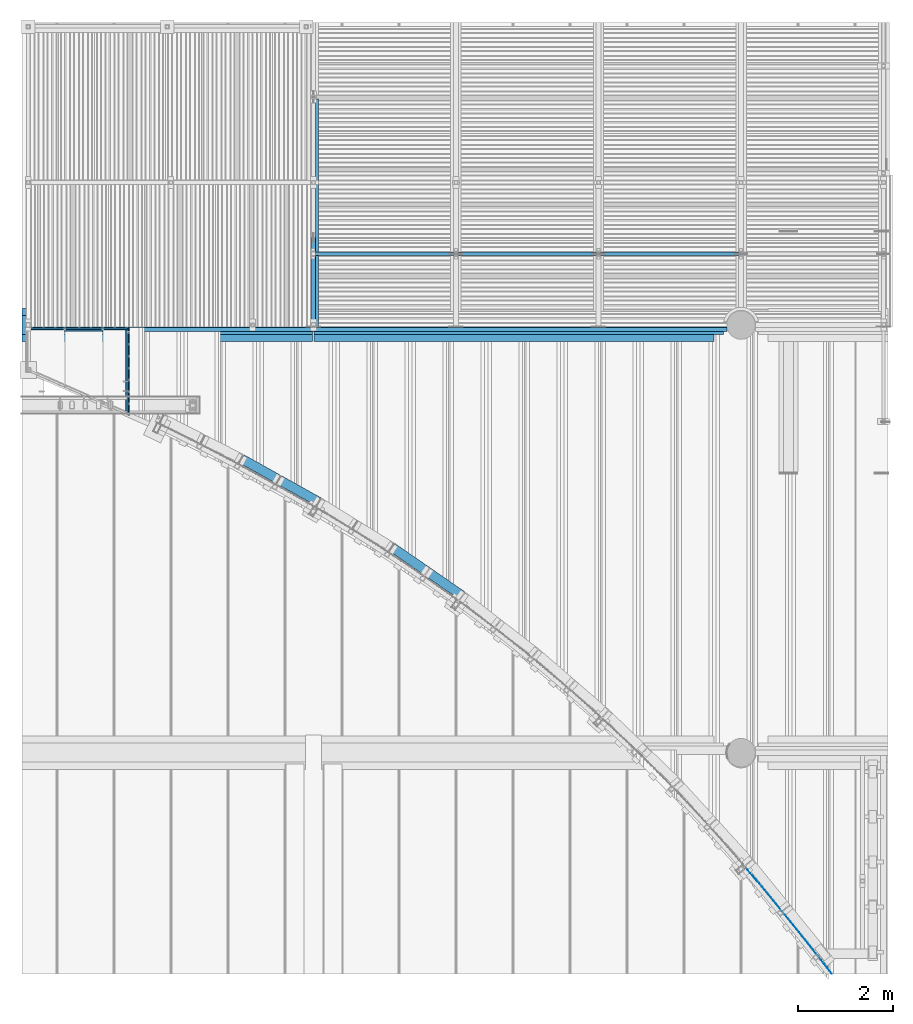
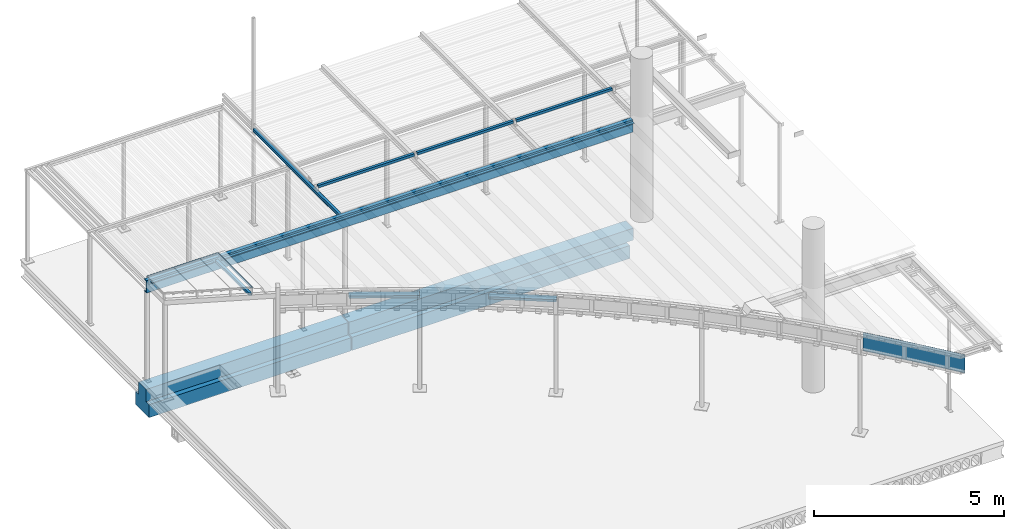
# One storey, part 20 of 98: 15 beams.
"""IFC2X3 building model written with IfcOpenShell, lengths in millimetres."""

from ifc_helpers import new_model, entity, si_unit, converted_unit, derived_unit, direction, frame, origin_with_axes, place, context, subcontext, project, spatial, faceted_brep, material, type_object, element, save


model = new_model("IFC2X3")

# Units and contexts
model_context = context("Model", 3, precision=0.01, world=frame((0.0, 4.29681676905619e-09, 0.0)), true_north=direction((4.01073788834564e-13, 1.0)))
plan_context = context("Plan", 3, precision=0.01, world=frame((0.0, 4.29681676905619e-09, 0.0)), true_north=direction((4.01073788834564e-13, 1.0)))
body_context = subcontext(model_context, "Body", "Model", "MODEL_VIEW")
ifc_project = project(units=[converted_unit("PLANEANGLEUNIT", "DEGREE", entity("IfcPositiveLengthMeasure", 0.0174532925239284), si_unit("PLANEANGLEUNIT", "RADIAN"), dimensions=[0, 0, 0, 0, 0, 0, 0]), si_unit("AREAUNIT", "SQUARE_METRE"), si_unit("LENGTHUNIT", "METRE", prefix="MILLI"), si_unit("MASSUNIT", "GRAM", prefix="KILO"), si_unit("POWERUNIT", "WATT"), si_unit("PRESSUREUNIT", "PASCAL"), si_unit("FORCEUNIT", "NEWTON", prefix="KILO"), si_unit("ELECTRICCURRENTUNIT", "AMPERE"), si_unit("THERMODYNAMICTEMPERATUREUNIT", "DEGREE_CELSIUS"), si_unit("TIMEUNIT", "SECOND"), si_unit("VOLUMEUNIT", "CUBIC_METRE"), derived_unit("LINEARVELOCITYUNIT", [(si_unit("LENGTHUNIT", "METRE"), 1), (si_unit("TIMEUNIT", "SECOND"), -1)]), derived_unit("VOLUMETRICFLOWRATEUNIT", [(si_unit("VOLUMEUNIT", "CUBIC_METRE"), 1), (si_unit("TIMEUNIT", "SECOND"), -1)]), derived_unit("THERMALTRANSMITTANCEUNIT", [(si_unit("POWERUNIT", "WATT"), 1), (si_unit("THERMODYNAMICTEMPERATUREUNIT", "KELVIN"), -1), (si_unit("AREAUNIT", "SQUARE_METRE"), -1)])], contexts=[model_context, plan_context])

# Site, building, storey
site_placement = place(None, frame((0.0, -4.29681676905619e-09, 0.0), z_axis=(0.0, 0.0, 1.0), x_axis=(1.0, 0.0, 0.0)))
site = spatial("IfcSite", under=ifc_project, at=site_placement, Name="Gardermoen", CompositionType="ELEMENT")
building_placement = place(site_placement, frame((0.0, 4.29681676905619e-09, 0.0), z_axis=(0.0, 0.0, 1.0), x_axis=(1.0, 0.0, 0.0)))
building = spatial("IfcBuilding", under=site, at=building_placement, Name="TS", CompositionType="ELEMENT")
storey_placement = place(building_placement, origin_with_axes())
storey = spatial("IfcBuildingStorey", under=building, at=storey_placement, Name="D", CompositionType="ELEMENT", Elevation=0.0)

# Beams
ifc_material_1 = material(Name="STEEL/S355")
beam_type_1 = type_object("IfcBeamType", Name="L80*10", PredefinedType="NOTDEFINED")
beam_1_placement = place(storey_placement, frame((513949.999999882, 414404.98, 207060.001811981), z_axis=(0.0, -1.0, 0.0), x_axis=(1.0, 0.0, 0.0)))
element("IfcBeam", 1, at=beam_1_placement, inside=storey, type_object=beam_type_1, material=ifc_material_1, Name="STÅLBJELKE", ObjectType="L80*10", context=body_context, shape_type="Brep", body=[
    faceted_brep([(14750.0046909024, 30.0, 39.9999996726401), (14750.0046909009, 30.0, -30.0000003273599), (14750.0046909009, -40.0, -30.0000003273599), (14750.0046909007, -40.0, -40.0000003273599), (14750.0046909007, 40.0, -40.0000003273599), (14750.0046909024, 40.0, 39.9999996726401), (2261.53318429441, -40.0, -30.0000000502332), (2261.53318429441, -40.0, -40.0000000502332), (2261.53318429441, 40.0, -40.0000000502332), (2261.53318429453, 40.0, 39.9999999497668), (2261.53318429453, 30.0, 40.0002379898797), (2261.53318429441, 30.0, -30.0000000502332), (140.000000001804, 30.0, 39.9999999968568), (140.000000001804, 40.0, 39.9999999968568), (140.000000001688, 40.0, -40.0000000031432), (140.000000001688, -40.0, -40.0000000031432), (140.000000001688, -40.0, -30.0000000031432), (140.000000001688, 30.0, -30.0000000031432), (2021.53318429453, 30.0, 40.0002379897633), (2021.53318429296, 30.0, -30.0000000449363), (2021.53318429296, -40.0, -30.0000000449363), (2021.53318429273, -40.0, -40.0000000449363), (2021.53318429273, 40.0, -40.0000000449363), (2021.53318429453, 40.0, 39.9999999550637)], [[[0, 1, 2, 3, 4, 5]], [[3, 2, 6, 7]], [[4, 3, 7, 8]], [[5, 4, 8, 9]], [[0, 5, 9, 10]], [[1, 0, 10, 11]], [[2, 1, 11, 6]], [[10, 9, 8, 7, 6, 11]], [[12, 13, 14, 15, 16, 17]], [[18, 19, 20, 21, 22, 23]], [[19, 18, 12, 17]], [[20, 19, 17, 16]], [[21, 20, 16, 15]], [[22, 21, 15, 14]], [[23, 22, 14, 13]], [[18, 23, 13, 12]]]),
])
beam_type_2 = type_object("IfcBeamType", Name="RHS80*5", PredefinedType="NOTDEFINED")
for number, where, z_axis, x_axis in (
    (2, (526044.999999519, 416000.000280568, 207119.999854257), (0.0, 0.0, -1.0), (1.0, 0.0, 0.0)),
    (3, (523044.999999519, 416000.000280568, 207119.999854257), (0.0, 0.0, -1.0), (1.0, 0.0, 0.0)),
    (4, (520044.999999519, 416000.000280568, 207119.999854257), (0.0, 0.0, -1.0), (1.0, 0.0, 0.0)),
):
    element("IfcBeam", number, at=place(storey_placement, frame(where, z_axis=z_axis, x_axis=x_axis)), inside=storey, type_object=beam_type_2, material=ifc_material_1, Name="STÅLBJELKE", ObjectType="RHS80*5", context=body_context, shape_type="Brep", body=[
        faceted_brep([(0.0, 35.0, -35.0), (0.0, -35.0, -35.0), (2910.0007787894, -35.0, -35.0), (2910.0007787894, 35.0, -35.0), (0.0, -35.0, 35.0), (2910.0007787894, -35.0, 35.0), (0.0, 35.0, 35.0), (2910.0007787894, 35.0, 35.0), (0.0, 40.0, -40.0), (0.0, 40.0, 40.0), (2910.0007787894, 40.0, 40.0), (2910.0007787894, 40.0, -40.0), (0.0, -40.0, 40.0), (2910.0007787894, -40.0, 40.0), (0.0, -40.0, -40.0), (2910.0007787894, -40.0, -40.0)], [[[0, 1, 2, 3]], [[1, 4, 5, 2]], [[4, 6, 7, 5]], [[6, 0, 3, 7]], [[8, 9, 10, 11]], [[9, 12, 13, 10]], [[12, 14, 15, 13]], [[14, 8, 11, 15]], [[13, 15, 11, 10], [5, 7, 3, 2]], [[14, 12, 9, 8], [6, 4, 1, 0]]]),
    ])
beam_type_3 = type_object("IfcBeamType", Name="RHS80*80*5", PredefinedType="NOTDEFINED")
beam_2_placement = place(storey_placement, frame((520000.0, 419260.000797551, 206964.999718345), z_axis=(0.0, 0.0, -1.0), x_axis=(0.0, -1.0, 0.0)))
element("IfcBeam", 5, at=beam_2_placement, inside=storey, type_object=beam_type_3, material=ifc_material_1, Name="STÅLBJELKE", ObjectType="RHS80*80*5", context=body_context, shape_type="Brep", body=[
    faceted_brep([(0.0, 35.0, -35.0), (0.0, -35.0, -35.0), (4791.01180849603, -35.0, -35.0), (4791.01189949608, 35.0, -35.0), (0.0, -35.0, 35.0), (4791.01180849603, -35.0, 35.0), (0.0, 35.0, 35.0), (4791.01189949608, 35.0, 35.0), (0.0, 40.0, -40.0), (0.0, 40.0, 40.0), (4791.01190599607, 40.0, 40.0), (4791.01190599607, 40.0, -40.0), (0.0, -40.0, 40.0), (4791.01180199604, -40.0, 40.0), (0.0, -40.0, -40.0), (4791.01180199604, -40.0, -40.0)], [[[0, 1, 2, 3]], [[1, 4, 5, 2]], [[4, 6, 7, 5]], [[6, 0, 3, 7]], [[8, 9, 10, 11]], [[9, 12, 13, 10]], [[12, 14, 15, 13]], [[14, 8, 11, 15]], [[13, 15, 11, 10], [5, 7, 3, 2]], [[14, 12, 9, 8], [6, 4, 1, 0]]]),
])
beam_type_4 = type_object("IfcBeamType", Name="RHS80*6", PredefinedType="NOTDEFINED")
beam_3_placement = place(storey_placement, frame((516079.998435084, 412566.947063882, 207060.0), z_axis=(0.0, 0.0, 1.0), x_axis=(0.0, 1.0, 0.0)))
element("IfcBeam", 6, at=beam_3_placement, inside=storey, type_object=beam_type_4, material=ifc_material_1, Name="STÅLBJELKE", ObjectType="RHS80*6", context=body_context, shape_type="Brep", body=[
    faceted_brep([(1878.02999999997, -40.0, 40.0), (1878.02999999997, 40.0, 40.0), (126.841354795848, 40.0, 40.0), (91.6548138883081, -40.0, 40.0), (1878.02999999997, -40.0, -40.0), (91.6548138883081, -40.0, -40.0), (1878.02999999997, 40.0, -40.0), (126.841354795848, 40.0, -40.0), (1878.02999999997, -34.0, 34.0), (1878.02999999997, 34.0, 34.0), (1878.02999999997, 34.0, -34.0), (1878.02999999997, -34.0, -34.0), (124.202364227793, 34.0, 34.0), (124.202364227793, 34.0, -34.0), (94.2938044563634, -34.0, -34.0), (94.2938044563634, -34.0, 34.0)], [[[0, 1, 2, 3]], [[4, 0, 3, 5]], [[6, 4, 5, 7]], [[1, 6, 7, 2]], [[0, 4, 6, 1], [8, 9, 10, 11]], [[10, 9, 12, 13]], [[11, 10, 13, 14]], [[8, 11, 14, 15]], [[9, 8, 15, 12]], [[5, 3, 2, 7], [14, 13, 12, 15]]]),
])
ifc_material_2 = material(Name="TIMBER/GL36c")
beam_type_5 = type_object("IfcBeamType", Name="PL73*198", PredefinedType="NOTDEFINED")
beam_4_placement = place(storey_placement, frame((523130.374203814, 408803.718649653, 206786.5), z_axis=(-0.568768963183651, -0.822497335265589, 0.0), x_axis=(-0.822497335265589, 0.568768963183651, 0.0)))
element("IfcBeam", 7, at=beam_4_placement, inside=storey, type_object=beam_type_5, material=ifc_material_2, Name="TREBJELKE", ObjectType="PL73*198", context=body_context, shape_type="Brep", body=[
    faceted_brep([(2.3283064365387e-10, 36.5, -99.0000000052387), (-2.3283064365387e-10, 36.5, 99.0000000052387), (1788.79262062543, 36.5, 99.0000000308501), (1788.79262062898, 36.5, -98.9999999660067), (-2.3283064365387e-10, -36.5, 99.0000000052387), (1788.79262062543, -36.5, 99.0000000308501), (2.3283064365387e-10, -36.5, -99.0000000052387), (1788.79262062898, -36.5, -98.9999999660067)], [[[0, 1, 2, 3]], [[1, 4, 5, 2]], [[4, 6, 7, 5]], [[6, 0, 3, 7]], [[5, 7, 3, 2]], [[6, 4, 1, 0]]]),
])
beam_5_placement = place(storey_placement, frame((520109.203264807, 410779.007983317, 206786.5), z_axis=(-0.487818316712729, -0.872945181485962, 0.0), x_axis=(-0.872945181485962, 0.487818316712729, 0.0)))
element("IfcBeam", 8, at=beam_5_placement, inside=storey, type_object=beam_type_5, material=ifc_material_2, Name="TREBJELKE", ObjectType="PL73*198", context=body_context, shape_type="Brep", body=[
    faceted_brep([(2.3283064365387e-10, 36.5, -99.0000000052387), (-2.3283064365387e-10, 36.5, 99.0000000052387), (1853.88054660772, 36.5, 98.9999999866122), (1853.88054660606, 36.5, -99.0000000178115), (-2.3283064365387e-10, -36.5, 99.0000000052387), (1853.88054660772, -36.5, 98.9999999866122), (2.3283064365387e-10, -36.5, -99.0000000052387), (1853.88054660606, -36.5, -99.0000000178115)], [[[0, 1, 2, 3]], [[1, 4, 5, 2]], [[4, 6, 7, 5]], [[6, 0, 3, 7]], [[5, 7, 3, 2]], [[6, 4, 1, 0]]]),
])
beam_type_6 = type_object("IfcBeamType", Name="4*595", PredefinedType="NOTDEFINED")
beam_6_placement = place(storey_placement, frame((529197.272753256, 402966.275256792, 206802.5), z_axis=(0.787132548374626, 0.616783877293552, 0.0), x_axis=(0.616783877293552, -0.787132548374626, 0.0)))
element("IfcBeam", 9, at=beam_6_placement, inside=storey, type_object=beam_type_6, Name="STÅLBJELKE", ObjectType="4*595", context=body_context, shape_type="Brep", body=[
    faceted_brep([(-140.259292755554, 297.5, -3.17192134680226), (-140.082485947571, 297.5, -7.16809242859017), (-94.6079697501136, 297.5, -5.44691682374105), (-94.7564051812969, 297.5, -1.44967190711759), (0.0713644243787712, 297.5, -1.99872637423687), (-0.0713644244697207, 297.5, 1.99872637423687), (94.755524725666, 297.5, 1.3142971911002), (94.618502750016, 297.5, 5.31194962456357), (189.444318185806, 297.5, 4.49214712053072), (189.313003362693, 297.5, 8.48999109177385), (284.137551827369, 297.5, 7.53481693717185), (284.011944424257, 297.5, 11.5328442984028), (378.835032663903, 297.5, 10.4423004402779), (378.715132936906, 297.5, 14.4405030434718), (473.536567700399, 297.5, 13.2145917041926), (473.422375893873, 297.5, 17.2129614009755), (568.241963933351, 297.5, 15.8516850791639), (568.133480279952, 297.5, 19.8502137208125), (662.951028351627, 297.5, 18.3535751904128), (662.848253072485, 297.5, 22.3522546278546), (757.663567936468, 297.5, 20.720256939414), (757.566501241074, 297.5, 24.7190790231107), (852.379389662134, 297.5, 22.9517255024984), (852.288031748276, 297.5, 26.9506820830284), (947.098300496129, 297.5, 25.0479763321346), (947.012651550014, 297.5, 29.0470592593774), (1041.82010739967, 297.5, 27.0090051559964), (1041.74016759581, 297.5, 31.0082062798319), (1136.54461732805, 297.5, 28.834807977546), (1136.47038682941, 297.5, 32.8341191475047), (1231.27163723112, 297.5, 30.5253810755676), (1231.203116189, 297.5, 34.5247941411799), (1326.00097405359, 297.5, 32.0807210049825), (1325.93816260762, 297.5, 36.080227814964), (1420.73243473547, 297.5, 33.5008245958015), (1420.67533301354, 297.5, 37.5004169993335), (1515.46582621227, 297.5, 34.7856889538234), (1515.41443433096, 297.5, 38.7853587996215), (1610.20095541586, 297.5, 35.9353114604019), (1610.15527347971, 297.5, 39.9350505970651), (1704.93762927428, 297.5, 36.949689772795), (1704.89765737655, 297.5, 40.9494900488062), (1799.67565471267, 297.5, 37.8288218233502), (1799.64139293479, 297.5, 41.8286750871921), (1894.4148386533, 297.5, 38.5727058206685), (1894.386287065, 297.5, 42.5726039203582), (1989.15498801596, 297.5, 39.1813402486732), (1989.1321466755, 297.5, 43.1812750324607), (2083.89590971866, 297.5, 39.6547238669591), (2083.87877867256, 297.5, 43.654687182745), (2178.63741067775, 297.5, 39.9928557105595), (2178.6259899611, 297.5, 43.9928394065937), (2273.37929780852, 297.5, 40.195735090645), (2273.37358744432, 297.5, 44.1957310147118), (2368.12137802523, 297.5, 40.2633615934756), (2368.12137802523, 297.5, 44.263361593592), (2462.86345824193, 297.5, 40.1957350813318), (2462.86916860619, 297.5, 44.195731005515), (2557.60534537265, 297.5, 39.9928556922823), (2557.61676608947, 297.5, 43.9928393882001), (2652.34684633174, 297.5, 39.6547238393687), (2652.3639773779, 297.5, 43.6546871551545), (2724.86952046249, 297.5, 39.2923561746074), (2727.99166775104, 297.5, 43.2768049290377), (-140.082485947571, -297.5, -7.16809242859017), (-94.6079697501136, -297.5, -5.44691682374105), (0.0713644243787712, -297.5, -1.99872637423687), (94.755524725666, -297.5, 1.3142971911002), (189.444318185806, -297.5, 4.49214712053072), (284.137551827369, -297.5, 7.53481693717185), (378.835032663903, -297.5, 10.4423004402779), (473.536567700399, -297.5, 13.2145917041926), (568.241963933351, -297.5, 15.8516850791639), (662.951028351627, -297.5, 18.3535751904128), (757.663567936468, -297.5, 20.720256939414), (852.379389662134, -297.5, 22.9517255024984), (947.098300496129, -297.5, 25.0479763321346), (1041.82010739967, -297.5, 27.0090051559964), (1136.54461732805, -297.5, 28.834807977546), (1231.27163723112, -297.5, 30.5253810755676), (1326.00097405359, -297.5, 32.0807210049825), (1420.73243473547, -297.5, 33.5008245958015), (1515.46582621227, -297.5, 34.7856889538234), (1610.20095541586, -297.5, 35.9353114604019), (1704.93762927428, -297.5, 36.949689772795), (1799.67565471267, -297.5, 37.8288218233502), (1894.4148386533, -297.5, 38.5727058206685), (1989.15498801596, -297.5, 39.1813402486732), (2083.89590971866, -297.5, 39.6547238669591), (2178.63741067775, -297.5, 39.9928557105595), (2273.37929780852, -297.5, 40.195735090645), (2368.12137802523, -297.5, 40.2633615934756), (2462.86345824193, -297.5, 40.1957350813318), (2557.60534537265, -297.5, 39.9928556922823), (2652.34684633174, -297.5, 39.6547238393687), (2724.86952046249, -297.5, 39.2923561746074), (-140.259292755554, -297.5, -3.17192134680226), (-94.7564051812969, -297.5, -1.44967190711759), (-0.0713644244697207, -297.5, 1.99872637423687), (94.618502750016, -297.5, 5.31194962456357), (189.313003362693, -297.5, 8.48999109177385), (284.011944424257, -297.5, 11.5328442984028), (378.715132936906, -297.5, 14.4405030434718), (473.422375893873, -297.5, 17.2129614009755), (568.133480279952, -297.5, 19.8502137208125), (662.848253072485, -297.5, 22.3522546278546), (757.566501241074, -297.5, 24.7190790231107), (852.288031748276, -297.5, 26.9506820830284), (947.012651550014, -297.5, 29.0470592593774), (1041.74016759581, -297.5, 31.0082062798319), (1136.47038682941, -297.5, 32.8341191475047), (1231.203116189, -297.5, 34.5247941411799), (1325.93816260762, -297.5, 36.080227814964), (1420.67533301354, -297.5, 37.5004169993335), (1515.41443433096, -297.5, 38.7853587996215), (1610.15527347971, -297.5, 39.9350505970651), (1704.89765737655, -297.5, 40.9494900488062), (1799.64139293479, -297.5, 41.8286750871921), (1894.386287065, -297.5, 42.5726039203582), (1989.1321466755, -297.5, 43.1812750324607), (2083.87877867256, -297.5, 43.654687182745), (2178.6259899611, -297.5, 43.9928394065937), (2273.37358744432, -297.5, 44.1957310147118), (2368.12137802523, -297.5, 44.263361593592), (2462.86916860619, -297.5, 44.195731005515), (2557.61676608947, -297.5, 43.9928393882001), (2652.3639773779, -297.5, 43.6546871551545), (2727.99166775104, -297.5, 43.2768049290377)], [[[0, 1, 2, 3]], [[4, 5, 3, 2]], [[6, 7, 5, 4]], [[8, 9, 7, 6]], [[10, 11, 9, 8]], [[12, 13, 11, 10]], [[14, 15, 13, 12]], [[16, 17, 15, 14]], [[18, 19, 17, 16]], [[20, 21, 19, 18]], [[22, 23, 21, 20]], [[24, 25, 23, 22]], [[26, 27, 25, 24]], [[28, 29, 27, 26]], [[30, 31, 29, 28]], [[32, 33, 31, 30]], [[34, 35, 33, 32]], [[36, 37, 35, 34]], [[38, 39, 37, 36]], [[40, 41, 39, 38]], [[42, 43, 41, 40]], [[44, 45, 43, 42]], [[46, 47, 45, 44]], [[48, 49, 47, 46]], [[50, 51, 49, 48]], [[52, 53, 51, 50]], [[54, 55, 53, 52]], [[56, 57, 55, 54]], [[58, 59, 57, 56]], [[60, 61, 59, 58]], [[62, 63, 61, 60]], [[1, 64, 65, 2]], [[66, 4, 2, 65]], [[67, 6, 4, 66]], [[68, 8, 6, 67]], [[69, 10, 8, 68]], [[70, 12, 10, 69]], [[71, 14, 12, 70]], [[72, 16, 14, 71]], [[73, 18, 16, 72]], [[74, 20, 18, 73]], [[75, 22, 20, 74]], [[76, 24, 22, 75]], [[77, 26, 24, 76]], [[78, 28, 26, 77]], [[79, 30, 28, 78]], [[80, 32, 30, 79]], [[81, 34, 32, 80]], [[82, 36, 34, 81]], [[83, 38, 36, 82]], [[84, 40, 38, 83]], [[85, 42, 40, 84]], [[86, 44, 42, 85]], [[87, 46, 44, 86]], [[88, 48, 46, 87]], [[89, 50, 48, 88]], [[90, 52, 50, 89]], [[91, 54, 52, 90]], [[92, 56, 54, 91]], [[93, 58, 56, 92]], [[94, 60, 58, 93]], [[95, 62, 60, 94]], [[64, 96, 97, 65]], [[98, 66, 65, 97]], [[99, 67, 66, 98]], [[100, 68, 67, 99]], [[101, 69, 68, 100]], [[102, 70, 69, 101]], [[103, 71, 70, 102]], [[104, 72, 71, 103]], [[105, 73, 72, 104]], [[106, 74, 73, 105]], [[107, 75, 74, 106]], [[108, 76, 75, 107]], [[109, 77, 76, 108]], [[110, 78, 77, 109]], [[111, 79, 78, 110]], [[112, 80, 79, 111]], [[113, 81, 80, 112]], [[114, 82, 81, 113]], [[115, 83, 82, 114]], [[116, 84, 83, 115]], [[117, 85, 84, 116]], [[118, 86, 85, 117]], [[119, 87, 86, 118]], [[120, 88, 87, 119]], [[121, 89, 88, 120]], [[122, 90, 89, 121]], [[123, 91, 90, 122]], [[124, 92, 91, 123]], [[125, 93, 92, 124]], [[126, 94, 93, 125]], [[127, 95, 94, 126]], [[0, 96, 64, 1]], [[96, 0, 3, 97]], [[5, 98, 97, 3]], [[7, 99, 98, 5]], [[9, 100, 99, 7]], [[11, 101, 100, 9]], [[13, 102, 101, 11]], [[15, 103, 102, 13]], [[17, 104, 103, 15]], [[19, 105, 104, 17]], [[21, 106, 105, 19]], [[23, 107, 106, 21]], [[25, 108, 107, 23]], [[27, 109, 108, 25]], [[29, 110, 109, 27]], [[31, 111, 110, 29]], [[33, 112, 111, 31]], [[35, 113, 112, 33]], [[37, 114, 113, 35]], [[39, 115, 114, 37]], [[41, 116, 115, 39]], [[43, 117, 116, 41]], [[45, 118, 117, 43]], [[47, 119, 118, 45]], [[49, 120, 119, 47]], [[51, 121, 120, 49]], [[53, 122, 121, 51]], [[55, 123, 122, 53]], [[57, 124, 123, 55]], [[59, 125, 124, 57]], [[61, 126, 125, 59]], [[63, 127, 126, 61]], [[95, 127, 63, 62]]], orient=[[False], [False], [False], [False], [False], [False], [False], [False], [False], [False], [False], [False], [False], [False], [False], [False], [False], [False], [False], [False], [False], [False], [False], [False], [False], [False], [False], [False], [False], [False], [False], [False], [False], [False], [False], [False], [False], [False], [False], [False], [False], [False], [False], [False], [False], [False], [False], [False], [False], [False], [False], [False], [False], [False], [False], [False], [False], [False], [False], [False], [False], [False], [False], [False], [False], [False], [False], [False], [False], [False], [False], [False], [False], [False], [False], [False], [False], [False], [False], [False], [False], [False], [False], [False], [False], [False], [False], [False], [False], [False], [False], [False], [False], [False], [False], [False], [False], [False], [False], [False], [False], [False], [False], [False], [False], [False], [False], [False], [False], [False], [False], [False], [False], [False], [False], [False], [False], [False], [False], [False], [False], [False], [False], [False], [False], [False]]),
])
beam_type_7 = type_object("IfcBeamType", Name="L40*5", PredefinedType="NOTDEFINED")
beam_7_placement = place(storey_placement, frame((516099.998435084, 414444.981084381, 207294.999999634), z_axis=(0.0, 0.0, 1.0), x_axis=(0.0, -1.0, 0.0)))
element("IfcBeam", 10, at=beam_7_placement, inside=storey, type_object=beam_type_7, material=ifc_material_1, Name="STÅLBJELKE", ObjectType="L40*5", context=body_context, shape_type="Brep", body=[
    faceted_brep([(0.0, 20.0, -20.0), (0.0, 20.0, 20.0), (1848.34457710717, 20.0, 20.0), (1848.34457710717, 20.0, -20.0), (5.00000000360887, 15.0, 20.0), (1840.69633648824, 15.0, 20.0), (5.00000000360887, 15.0, -15.0), (1840.69633648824, 15.0, -15.0), (40.0000000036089, -20.0, -15.0), (1787.15865215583, -20.0, -15.0), (40.0000000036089, -20.0, -20.0), (1787.15865215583, -20.0, -20.0)], [[[0, 1, 2, 3]], [[1, 4, 5, 2]], [[4, 6, 7, 5]], [[6, 8, 9, 7]], [[8, 10, 11, 9]], [[10, 0, 3, 11]], [[5, 7, 9, 11, 3, 2]], [[10, 8, 6, 4, 1, 0]]]),
])
beam_8_placement = place(storey_placement, frame((513959.998437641, 414424.981084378, 207295.0), z_axis=(0.0, 0.0, 1.0), x_axis=(1.0, 0.0, 0.0)))
element("IfcBeam", 11, at=beam_8_placement, inside=storey, type_object=beam_type_7, material=ifc_material_1, Name="STÅLBJELKE", ObjectType="L40*5", context=body_context, shape_type="Brep", body=[
    faceted_brep([(-10.0000025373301, 20.0, -20.0), (-10.0000025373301, 20.0, 20.0), (2159.99999744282, 20.0, 20.0), (2159.99999744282, 20.0, -20.0), (-5.00050366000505, 15.0, 20.0), (2154.99999744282, 15.0, 20.0), (-5.00050366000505, 15.0, -15.0), (2154.99999744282, 15.0, -15.0), (29.9959884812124, -20.0, -15.0), (2119.99999744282, -20.0, -15.0), (29.9959884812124, -20.0, -20.0), (2119.99999744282, -20.0, -20.0)], [[[0, 1, 2, 3]], [[1, 4, 5, 2]], [[4, 6, 7, 5]], [[6, 8, 9, 7]], [[8, 10, 11, 9]], [[10, 0, 3, 11]], [[5, 7, 9, 11, 3, 2]], [[10, 8, 6, 4, 1, 0]]]),
])
beam_type_8 = type_object("IfcBeamType", Name="UNP400", PredefinedType="NOTDEFINED")
beam_9_placement = place(storey_placement, frame((513949.998435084, 414499.981078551, 206959.999718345), z_axis=(0.0, 0.0, -1.0), x_axis=(0.999999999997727, 2.13200051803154e-06, 0.0)))
element("IfcBeam", 12, at=beam_9_placement, inside=storey, type_object=beam_type_8, material=ifc_material_1, Name="STÅLBJELKE", ObjectType="UNP400", context=body_context, shape_type="Brep", body=[
    faceted_brep([(-9.89530235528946e-10, 54.9999999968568, -200.0), (-9.89530235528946e-10, 54.9999999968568, 200.0), (14750.0100000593, 54.999999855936, 200.0), (14750.0100000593, 54.999999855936, -200.0), (9.89530235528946e-10, -54.9999999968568, 200.0), (14750.0100000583, -55.0000001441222, 200.0), (9.89530235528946e-10, -54.9999999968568, 184.75), (14750.0100000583, -55.0000001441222, 184.75), (-6.98491930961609e-10, 40.9999999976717, 179.950000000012), (14750.0100000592, 40.999999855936, 179.950000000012), (-6.98491930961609e-10, 40.9999999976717, -179.950000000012), (14750.0100000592, 40.999999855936, -179.950000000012), (9.89530235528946e-10, -54.9999999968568, -184.75), (14750.0100000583, -55.0000001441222, -184.75), (9.89530235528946e-10, -54.9999999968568, -200.0), (14750.0100000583, -55.0000001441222, -200.0)], [[[0, 1, 2, 3]], [[1, 4, 5, 2]], [[4, 6, 7, 5]], [[6, 8, 9, 7]], [[8, 10, 11, 9]], [[10, 12, 13, 11]], [[12, 14, 15, 13]], [[14, 0, 3, 15]], [[5, 7, 9, 11, 13, 15, 3, 2]], [[14, 12, 10, 8, 6, 4, 1, 0]]]),
])
beam_type_9 = type_object("IfcBeamType", Name="10*150", PredefinedType="NOTDEFINED")
beam_10_placement = place(storey_placement, frame((520030.0, 419260.000797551, 206919.999718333), z_axis=(0.0, 0.0, -1.0), x_axis=(0.0, -1.0, 0.0)))
element("IfcBeam", 13, at=beam_10_placement, inside=storey, type_object=beam_type_9, material=ifc_material_1, Name="STÅLBJELKE", ObjectType="10*150", context=body_context, shape_type="Brep", body=[
    faceted_brep([(0.0, 75.0, -5.0), (0.0, 75.0, 5.0), (4791.01191249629, 75.0, 5.0), (4791.01191249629, 75.0, -5.0), (0.0, -75.0, 5.0), (4791.01171749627, -75.0, 5.0), (0.0, -75.0, -5.0), (4791.01171749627, -75.0, -5.0)], [[[0, 1, 2, 3]], [[1, 4, 5, 2]], [[4, 6, 7, 5]], [[6, 0, 3, 7]], [[5, 7, 3, 2]], [[6, 4, 1, 0]]]),
])
ifc_material_3 = material(Name="CONCRETE/C45/55")
beam_type_10 = type_object("IfcBeamType", Name="DLB400*815-700*420", PredefinedType="NOTDEFINED")
beam_11_placement = place(storey_placement, frame((520014.999766, 414499.995625, 203387.5), z_axis=(0.0, 0.0, 1.0), x_axis=(1.0, 0.0, 0.0)))
element("IfcBeam", 14, at=beam_11_placement, inside=storey, type_object=beam_type_10, material=ifc_material_3, Name="PREFABBJELKE", ObjectType="DLB400*815-700*420", context=body_context, shape_type="Brep", body=[
    faceted_brep([(8420.0, -200.0, 12.5), (8420.0, -350.0, 12.5), (8420.0, -350.0, -407.5), (8420.0, 350.0, -407.5), (8420.0, 350.0, 12.5), (8420.0, 200.0, 12.5), (8420.0, 200.0, 22.5), (8420.0, -200.0, 22.5), (8620.0, -200.0, 22.5), (8620.0, 200.0, 22.5), (0.0, -350.0, -407.5), (0.0, -350.0, 12.5), (0.0, -200.0, 12.5), (0.0, -200.0, 407.5), (0.0, 200.0, 407.5), (0.0, 200.0, 12.5), (0.0, 350.0, 12.5), (0.0, 350.0, -407.5), (8620.0, -200.0, 407.5), (8620.0, 200.0, 407.5)], [[[0, 1, 2, 3, 4, 5, 6, 7]], [[8, 7, 6, 9]], [[10, 11, 12, 13, 14, 15, 16, 17]], [[14, 13, 18, 19]], [[19, 18, 8, 9]], [[5, 15, 14, 19, 9, 6]], [[16, 15, 5, 4]], [[17, 16, 4, 3]], [[10, 17, 3, 2]], [[11, 10, 2, 1]], [[12, 11, 1, 0]], [[18, 13, 12, 0, 7, 8]]]),
])
beam_12_placement = place(storey_placement, frame((519985.000234, 414499.995625, 203387.5), z_axis=(0.0, 0.0, 1.0), x_axis=(-0.999999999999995, -9.99999902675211e-08, 0.0)))
element("IfcBeam", 15, at=beam_12_placement, inside=storey, type_object=beam_type_10, Name="PREFABBJELKE", ObjectType="DLB400*815-700*420", context=body_context, shape_type="Brep", body=[
    faceted_brep([(0.0, 350.0, -407.5), (0.0, 350.0, 12.5), (0.0, 200.0, 12.5), (0.0, 200.0, 407.5), (0.0, -200.0, 407.5), (0.0, -200.0, 12.5), (0.0, -350.0, 12.5), (0.0, -350.0, -407.5), (6122.50028399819, 200.0, 407.5), (6122.50028399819, -200.0, 407.5), (6122.50025399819, 200.0, 12.5), (6122.50028399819, 350.0, 12.5), (6122.50026899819, 350.0, -407.5), (6122.50028399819, -350.0, -407.5), (6122.50019899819, -350.0, 12.5), (6122.50028399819, -200.0, 12.5), (6122.5001839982, 200.0, 12.5), (6122.5001839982, 350.0, 12.5), (6122.5001839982, 350.0, -407.5), (6122.5001839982, -350.0, -407.5), (6122.5001839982, -350.0, 12.5), (6122.5001839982, -200.0, 12.5), (6122.5001839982, -200.0, 407.5), (6122.5001839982, 200.0, 407.5)], [[[0, 1, 2, 3, 4, 5, 6, 7]], [[8, 9, 4, 3]], [[10, 8, 3, 2]], [[11, 10, 2, 1]], [[12, 11, 1, 0]], [[13, 12, 0, 7]], [[14, 13, 7, 6]], [[15, 14, 6, 5]], [[9, 15, 5, 4]], [[16, 17, 18, 19, 20, 21, 22, 23]]], orient=[[False], [False], [False], [False], [False], [False], [False], [False], [False], [False]]),
])

save(model, "model.ifc")
